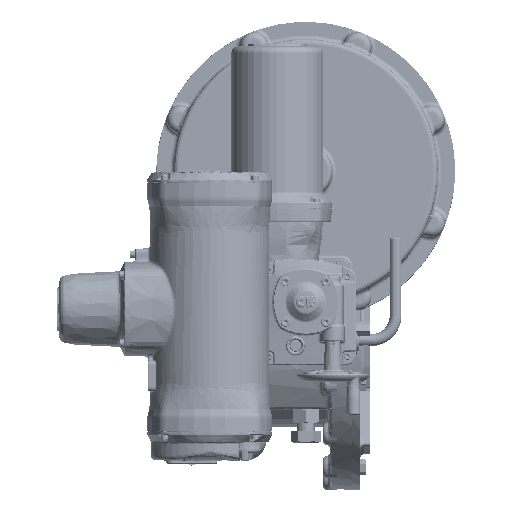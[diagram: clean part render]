
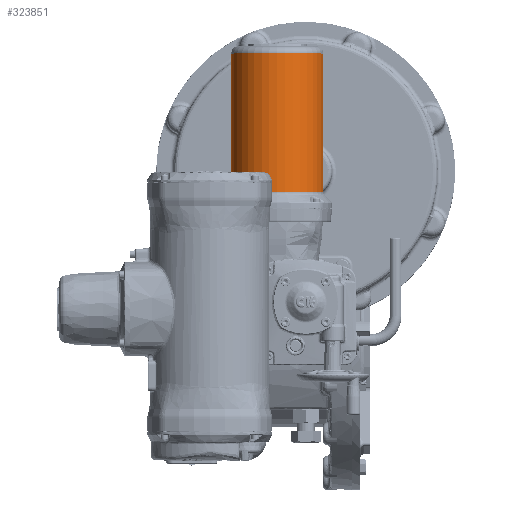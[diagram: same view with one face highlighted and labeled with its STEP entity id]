
A CAD part, top view. The second image highlights one B-rep face of the part: STEP entity #323851.
In plain terms, the highlighted cylindrical face has radius 63 mm (diameter 126 mm), a full revolution.
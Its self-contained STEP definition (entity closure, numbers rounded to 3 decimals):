
#8823=CYLINDRICAL_SURFACE('',#344461,63.);
#22583=B_SPLINE_CURVE_WITH_KNOTS('',3,(#623590,#623591,#623592,#623593,
#623594,#623595,#623596,#623597,#623598,#623599,#623600,#623601,#623602,
#623603,#623604,#623605,#623606,#623607,#623608,#623609,#623610,#623611,
#623612,#623613,#623614,#623615,#623616,#623617,#623618),.UNSPECIFIED.,
 .T.,.F.,(1,1,1,1,1,1,1,1,1,1,1,1,1,1,1,1,1,1,1,1,1,1,1,1,1,1,1,1,1,1,1,
1,1),(-0.014,-0.01,-0.007,0.,0.007,
0.01,0.014,0.017,0.02,
0.024,0.026,0.027,0.031,
0.034,0.038,0.041,0.048,
0.055,0.061,0.068,0.075,
0.079,0.08,0.082,0.085,
0.089,0.096,0.099,0.102,
0.109,0.116,0.119,0.123),
 .UNSPECIFIED.);
#110053=ORIENTED_EDGE('',*,*,#151079,.T.);
#110054=ORIENTED_EDGE('',*,*,#151284,.T.);
#110055=ORIENTED_EDGE('',*,*,#151285,.T.);
#151079=EDGE_CURVE('',#176182,#176182,#188058,.T.);
#151284=EDGE_CURVE('',#176307,#176307,#22583,.T.);
#151285=EDGE_CURVE('',#176308,#176308,#188113,.T.);
#176182=VERTEX_POINT('',#621101);
#176307=VERTEX_POINT('',#623619);
#176308=VERTEX_POINT('',#623621);
#188058=CIRCLE('',#344367,63.);
#188113=CIRCLE('',#344462,63.);
#203167=EDGE_LOOP('',(#110053));
#203168=EDGE_LOOP('',(#110054));
#203169=EDGE_LOOP('',(#110055));
#219776=FACE_BOUND('',#203167,.T.);
#219777=FACE_BOUND('',#203168,.T.);
#219778=FACE_BOUND('',#203169,.T.);
#323851=ADVANCED_FACE('',(#219776,#219777,#219778),#8823,.T.);
#344367=AXIS2_PLACEMENT_3D('',#621100,#394167,#394168);
#344461=AXIS2_PLACEMENT_3D('',#623589,#394387,#394388);
#344462=AXIS2_PLACEMENT_3D('',#623620,#394389,#394390);
#394167=DIRECTION('',(0.,1.,0.));
#394168=DIRECTION('',(-1.,0.,0.));
#394387=DIRECTION('',(0.,1.,0.));
#394388=DIRECTION('',(-1.,0.,0.));
#394389=DIRECTION('',(0.,-1.,0.));
#394390=DIRECTION('',(1.,0.,0.));
#621100=CARTESIAN_POINT('',(-38.8,150.002,59.435));
#621101=CARTESIAN_POINT('',(-101.8,150.002,59.435));
#623589=CARTESIAN_POINT('',(-38.8,81.9,59.435));
#623590=CARTESIAN_POINT('',(-23.593,213.757,-1.719));
#623591=CARTESIAN_POINT('',(-21.955,219.274,-1.27));
#623592=CARTESIAN_POINT('',(-22.353,225.004,-1.385));
#623593=CARTESIAN_POINT('',(-23.839,229.262,-1.769));
#623594=CARTESIAN_POINT('',(-25.528,232.209,-2.162));
#623595=CARTESIAN_POINT('',(-27.706,234.751,-2.597));
#623596=CARTESIAN_POINT('',(-30.384,236.848,-3.023));
#623597=CARTESIAN_POINT('',(-32.888,238.086,-3.303));
#623598=CARTESIAN_POINT('',(-35.065,238.755,-3.462));
#623599=CARTESIAN_POINT('',(-37.258,239.177,-3.564));
#623600=CARTESIAN_POINT('',(-40.12,239.251,-3.582));
#623601=CARTESIAN_POINT('',(-43.428,238.6,-3.423));
#623602=CARTESIAN_POINT('',(-46.56,237.243,-3.109));
#623603=CARTESIAN_POINT('',(-50.219,234.64,-2.565));
#623604=CARTESIAN_POINT('',(-53.698,230.119,-1.804));
#623605=CARTESIAN_POINT('',(-55.64,223.526,-1.272));
#623606=CARTESIAN_POINT('',(-55.174,216.662,-1.406));
#623607=CARTESIAN_POINT('',(-52.347,210.422,-2.134));
#623608=CARTESIAN_POINT('',(-48.254,206.465,-2.906));
#623609=CARTESIAN_POINT('',(-44.698,204.71,-3.304));
#623610=CARTESIAN_POINT('',(-42.563,204.052,-3.46));
#623611=CARTESIAN_POINT('',(-40.319,203.619,-3.565));
#623612=CARTESIAN_POINT('',(-37.517,203.547,-3.582));
#623613=CARTESIAN_POINT('',(-33.03,204.424,-3.369));
#623614=CARTESIAN_POINT('',(-29.072,206.681,-2.85));
#623615=CARTESIAN_POINT('',(-25.981,209.975,-2.259));
#623616=CARTESIAN_POINT('',(-23.593,213.757,-1.719));
#623617=CARTESIAN_POINT('',(-21.955,219.274,-1.27));
#623618=CARTESIAN_POINT('',(-22.353,225.004,-1.385));
#623619=CARTESIAN_POINT('',(-22.362,219.317,-1.383));
#623620=CARTESIAN_POINT('',(-38.8,339.4,59.435));
#623621=CARTESIAN_POINT('',(24.2,339.4,59.435));
